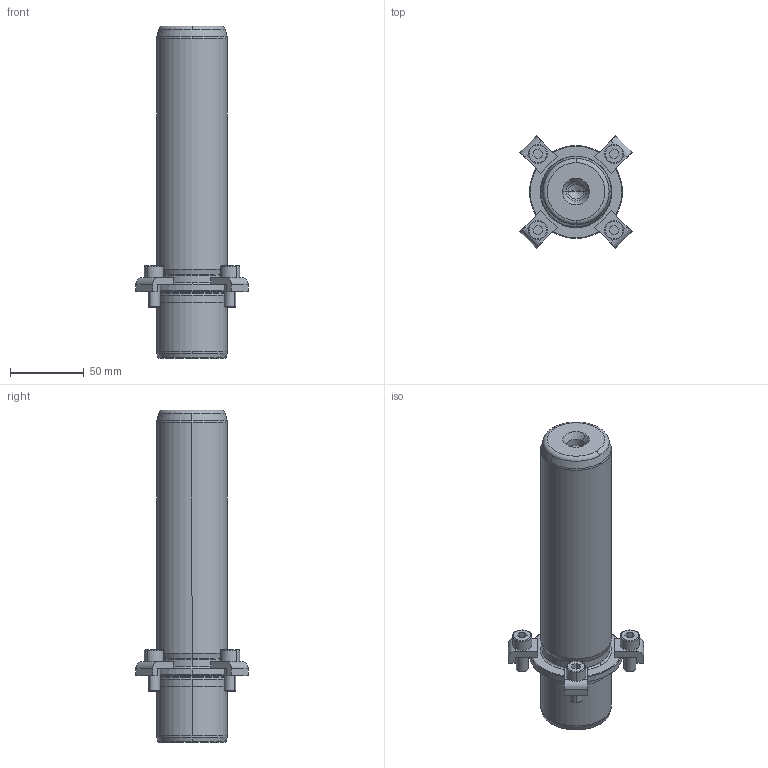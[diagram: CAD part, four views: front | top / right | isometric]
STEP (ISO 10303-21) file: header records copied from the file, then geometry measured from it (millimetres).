
FILE_DESCRIPTION((''),'2;1');
FILE_NAME('P21_048_180.stp','2008-12-23T13:38:17',(''),(''),'Mechanical Desktop 2009','Mechanical Desktop 2009',', , ');
FILE_SCHEMA(('CONFIG_CONTROL_DESIGN'));
Length unit declared in the file: millimetre
Products named in the file (2): Product; blmdl1
Assembly tree (1 placements, depth 2):
  Product
    blmdl1
Bounding box: 76.01 x 76.01 x 225 mm (x, y, z)
Volume: 416222.4 mm3; surface area: 51345 mm2
Topology: 9 solids, 9 shells, 195 faces, 477 edges, 309 vertices
Faces by surface type: plane 77, cylinder 52, cone 34, torus 16, bspline 16
Entity records: 6547 total; most frequent: CARTESIAN_POINT 1683, DIRECTION 1078, ORIENTED_EDGE 946, EDGE_CURVE 473, AXIS2_PLACEMENT_3D 424, VERTEX_POINT 309, CIRCLE 243, VECTOR 230
